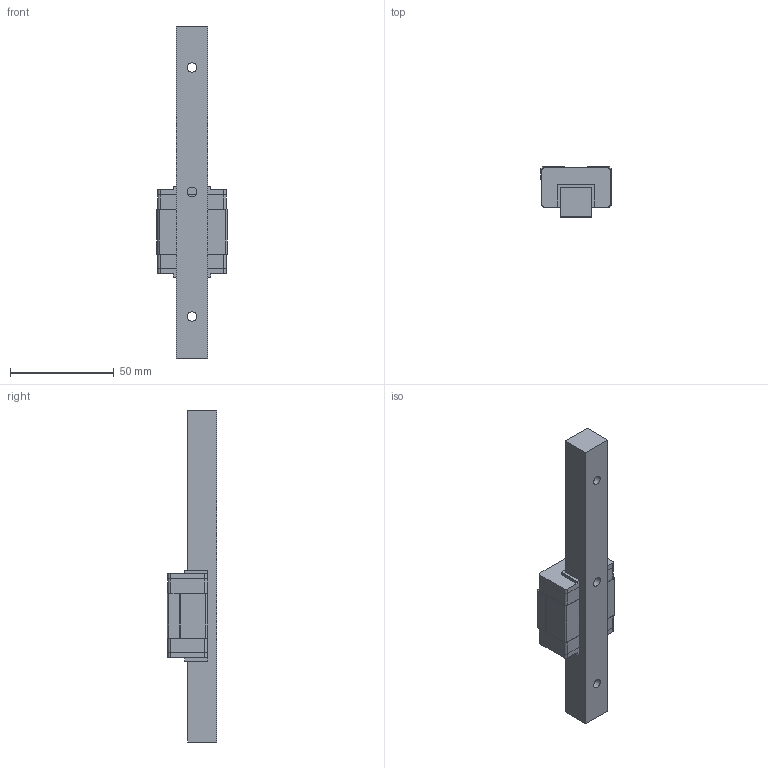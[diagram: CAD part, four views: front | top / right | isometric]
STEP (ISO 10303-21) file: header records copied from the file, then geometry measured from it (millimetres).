
FILE_DESCRIPTION((''),'2;1');
FILE_NAME('E:\PDF郪磁芞\DFS-B\DFS15BS.STP','2018-01-31T12:50:19',(''),(''),'STEP Write','Mastercam V9 ... CNC Software, Inc.','');
FILE_SCHEMA(('CONFIG_CONTROL_DESIGN'));
Length unit declared in the file: millimetre
Bounding box: 34 x 24 x 160 mm (x, y, z)
Volume: 52717.8 mm3; surface area: 20572.5 mm2
Topology: 6 solids, 6 shells, 103 faces, 467 edges, 582 vertices
Faces by surface type: plane 79, cylinder 24
Full cylindrical faces by diameter (mm): 3.6 x2, 4.5 x3, 7.5 x3
Entity records: 4406 total; most frequent: CARTESIAN_POINT 968, DIRECTION 746, ORIENTED_EDGE 500, VECTOR 362, LINE 362, EDGE_CURVE 250, TRIMMED_CURVE 201, AXIS2_PLACEMENT_3D 192
